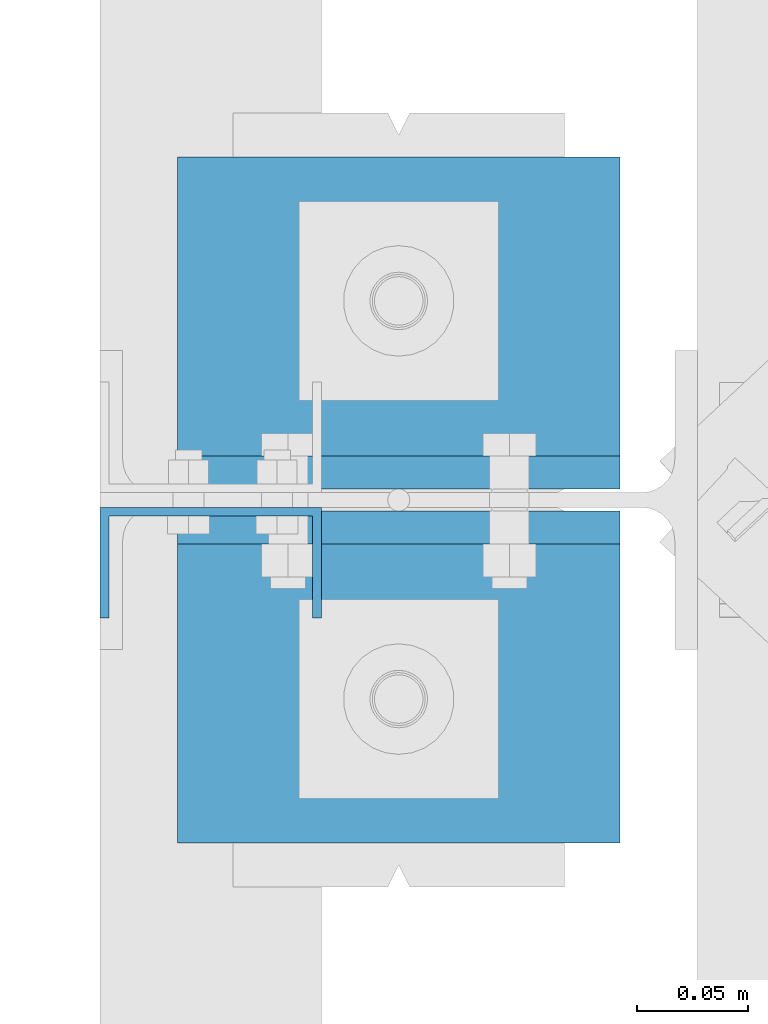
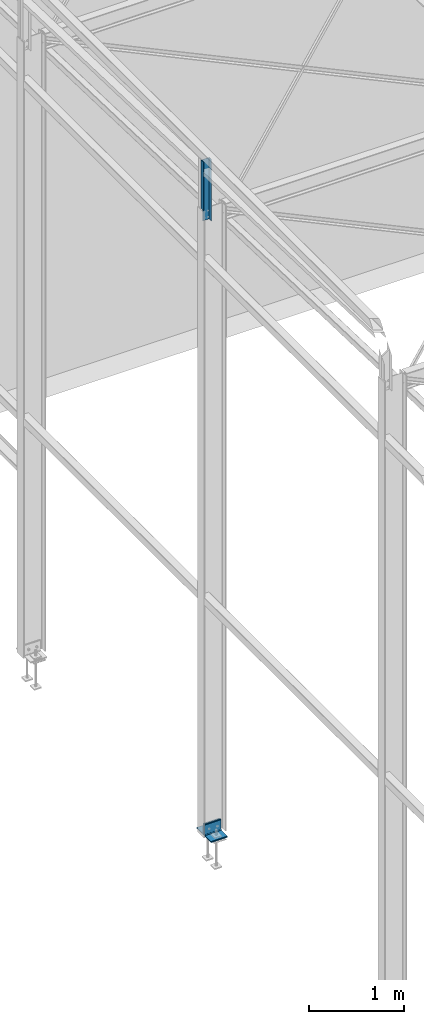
# One storey, part 41 of 123: 3 beams, 3 elements without a shape of their own.
"""IFC2X3 building model written with IfcOpenShell, lengths in millimetres."""

from ifc_helpers import new_model, si_unit, frame, origin_with_axes, origin_2d_with_axis, place, context, subcontext, project, spatial, polyline, l_section, u_section, outline, extrude, boolean, material, type_object, element, aggregate, save


model = new_model("IFC2X3")

# Units and contexts
model_context = context("Model", 3, precision=1e-05, world=origin_with_axes())
body_context = subcontext(model_context, "Body", "Model", "MODEL_VIEW")
ifc_project = project(units=[si_unit("LENGTHUNIT", "METRE", prefix="MILLI"), si_unit("AREAUNIT", "SQUARE_METRE"), si_unit("VOLUMEUNIT", "CUBIC_METRE"), si_unit("MASSUNIT", "GRAM", prefix="KILO"), si_unit("TIMEUNIT", "SECOND"), si_unit("PLANEANGLEUNIT", "RADIAN"), si_unit("SOLIDANGLEUNIT", "STERADIAN"), si_unit("THERMODYNAMICTEMPERATUREUNIT", "DEGREE_CELSIUS"), si_unit("LUMINOUSINTENSITYUNIT", "LUMEN")], contexts=[model_context])

# Site, building, storey
site_placement = place(None, origin_with_axes())
site = spatial("IfcSite", under=ifc_project, at=site_placement, Name="Undefined", CompositionType="ELEMENT")
building_placement = place(site_placement, origin_with_axes())
building = spatial("IfcBuilding", under=site, at=building_placement, Name="Undefined", CompositionType="ELEMENT")
storey_placement = place(building_placement, origin_with_axes())
storey = spatial("IfcBuildingStorey", under=building, at=storey_placement, Name="Undefined", CompositionType="ELEMENT", Elevation=0.0)

# Assembly, beam
assembly_1_placement = place(storey_placement, origin_with_axes())
assembly_1 = element("IfcElementAssembly", 1, at=assembly_1_placement, inside=storey, Name="Steel Assembly", AssemblyPlace="NOTDEFINED", PredefinedType="RIGID_FRAME")
ifc_material = material(Name="STEEL/S235-E24")
beam_type_1 = type_object("IfcBeamType", Name="UPF-100*50*4", PredefinedType="NOTDEFINED")
beam_1_placement = place(assembly_1_placement, frame((-130.000001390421, 7571.70000007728, 8444.9989692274), z_axis=(1.0, 0.0, 0.0), x_axis=(0.0, 0.0, -1.0)))
beam_1 = element("IfcBeam", 2, at=beam_1_placement, type_object=beam_type_1, material=ifc_material, Name="BAIONNETTE", ObjectType="UPF-100*50*4", context=body_context, shape_type="CSG", body=[
    boolean("DIFFERENCE", extrude(u_section(Depth=100.0, FlangeWidth=50.0, WebThickness=4.0, FlangeThickness=4.0, at=origin_2d_with_axis()), frame((789.998684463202, 0.0, 0.0), z_axis=(-1.0, 0.0, 0.0), x_axis=(0.0, -1.0, 0.0)), (0.0, 0.0, 1.0), 790.0), extrude(outline(polyline([(0.0, 0.0), (19.999999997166, 0.0), (19.999999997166, 170.0), (-2.84853740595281e-09, 170.0), (0.0, 0.0)])), frame((619.998558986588, -27.5000000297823, -50.0000000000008), z_axis=(0.0, 1.0, 0.0), x_axis=(0.0, 0.0, 1.0)), (0.0, 0.0, 1.0), 55.0)),
])
aggregate(assembly_1, [beam_1])

assembly_2_placement = place(storey_placement, origin_with_axes())
assembly_2 = element("IfcElementAssembly", 3, at=assembly_2_placement, inside=storey, Name="Steel Assembly", AssemblyPlace="NOTDEFINED", PredefinedType="RIGID_FRAME")
beam_type_2 = type_object("IfcBeamType", Name="L150*15", PredefinedType="NOTDEFINED")
beam_2_placement = place(assembly_2_placement, frame((55.0, 7680.0, -175.0), z_axis=(0.0, 0.0, 1.0), x_axis=(-1.0, 0.0, 0.0)))
beam_2 = element("IfcBeam", 4, at=beam_2_placement, type_object=beam_type_2, material=ifc_material, Name="ATTACHE", ObjectType="L150*15", context=body_context, shape_type="SweptSolid", body=[
    extrude(l_section(Depth=150.0, Width=150.0, Thickness=15.0, FilletRadius=16.0, EdgeRadius=8.0, at=origin_2d_with_axis()), frame((200.0, 0.0, 0.0), z_axis=(-1.0, 0.0, 0.0), x_axis=(0.0, -1.0, 0.0)), (0.0, 0.0, 1.0), 200.0),
])
aggregate(assembly_2, [beam_2])

assembly_3_placement = place(storey_placement, origin_with_axes())
assembly_3 = element("IfcElementAssembly", 5, at=assembly_3_placement, inside=storey, Name="Steel Assembly", AssemblyPlace="NOTDEFINED", PredefinedType="RIGID_FRAME")
beam_3_placement = place(assembly_3_placement, frame((-145.0, 7520.0, -175.0), z_axis=(0.0, 0.0, 1.0), x_axis=(1.0, 0.0, 0.0)))
beam_3 = element("IfcBeam", 6, at=beam_3_placement, type_object=beam_type_2, material=ifc_material, Name="ATTACHE", ObjectType="L150*15", context=body_context, shape_type="SweptSolid", body=[
    extrude(l_section(Depth=150.0, Width=150.0, Thickness=15.0, FilletRadius=16.0, EdgeRadius=8.0, at=origin_2d_with_axis()), frame((200.0, 0.0, 0.0), z_axis=(-1.0, 0.0, 0.0), x_axis=(0.0, -1.0, 0.0)), (0.0, 0.0, 1.0), 200.0),
])
aggregate(assembly_3, [beam_3])

save(model, "model.ifc")
